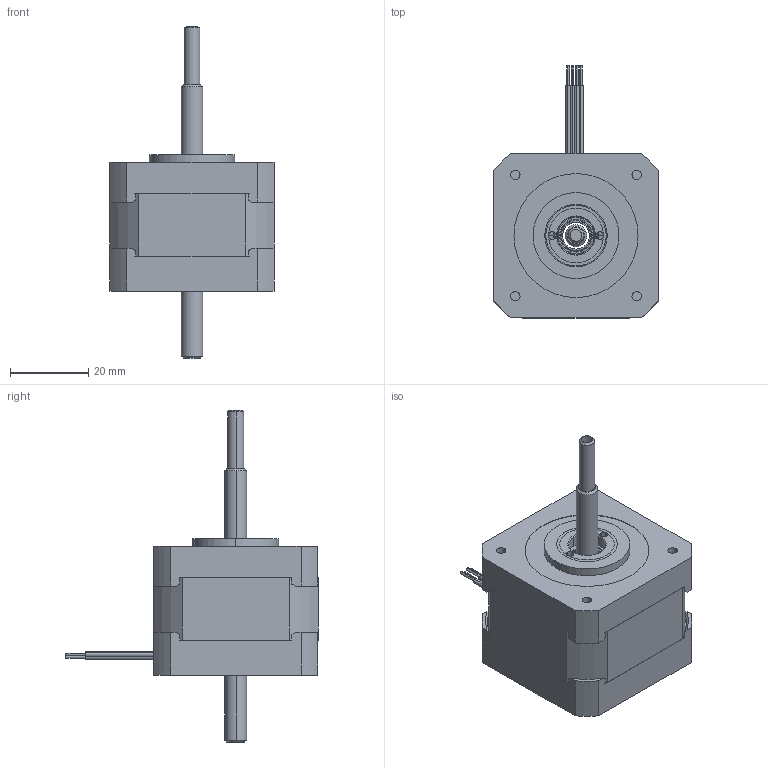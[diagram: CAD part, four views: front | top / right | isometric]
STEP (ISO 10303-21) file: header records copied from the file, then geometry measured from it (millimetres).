
FILE_DESCRIPTION (( 'STEP AP203' ), '1' );
FILE_NAME ('42¹áÍ¨.STEP', '2014-09-12T05:22:11', ( 'user' ), ( 'pxctfys' ), 'SwSTEP 2.0', 'SolidWorks 2012', '' );
FILE_SCHEMA (( 'CONFIG_CONTROL_DESIGN' ));
Products named in the file (1): 42嫗籵
Bounding box: 42.16 x 64.57 x 85 mm (x, y, z)
Surface area: 41683.3 mm2 (no closed solid volume)
Topology: 0 solids, 40 shells, 1962 faces, 5894 edges, 3918 vertices
Faces by surface type: cylinder 1078, plane 686, bspline 112, cone 54, torus 32
Entity records: 71173 total; most frequent: CARTESIAN_POINT 16973, DIRECTION 11780, ORIENTED_EDGE 11123, EDGE_CURVE 5894, AXIS2_PLACEMENT_3D 4239, VERTEX_POINT 3918, VECTOR 3302, LINE 3302
